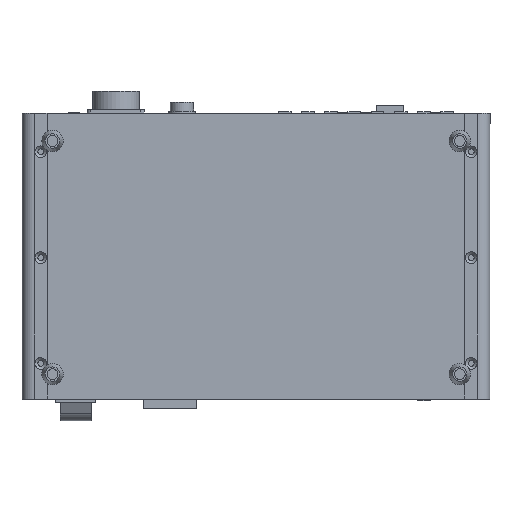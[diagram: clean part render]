
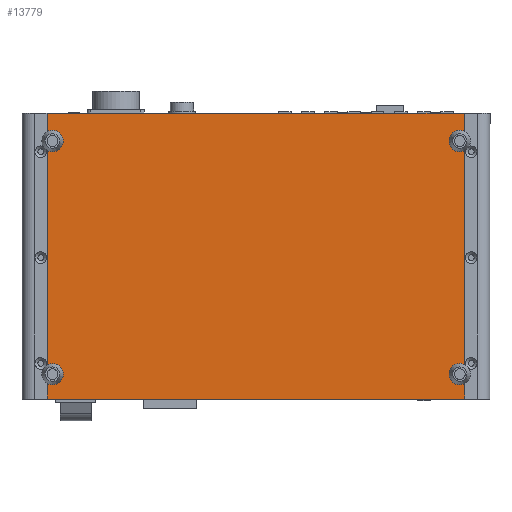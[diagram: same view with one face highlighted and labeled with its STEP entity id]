
A CAD part, front view. The second image highlights one B-rep face of the part: STEP entity #13779.
In plain terms, the highlighted planar face has unit normal (0, -1, 0).
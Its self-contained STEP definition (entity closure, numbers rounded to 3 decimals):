
#44 = LINE ( 'NONE', #1401, #11378 ) ;
#111 = VERTEX_POINT ( 'NONE', #4983 ) ;
#206 = LINE ( 'NONE', #7786, #13848 ) ;
#424 = EDGE_LOOP ( 'NONE', ( #5929, #12008, #8645, #15468, #7775, #4840, #12082, #8828, #7925, #7046, #6901, #12427, #8510, #9872 ) ) ;
#491 = DIRECTION ( 'NONE',  ( 0., 0., 1. ) ) ;
#528 = CARTESIAN_POINT ( 'NONE',  ( -362.974, -74.886, -25.151 ) ) ;
#532 = VECTOR ( 'NONE', #491, 1000. ) ;
#702 = DIRECTION ( 'NONE',  ( 0., 0., 1. ) ) ;
#797 = DIRECTION ( 'NONE',  ( 0., 0., 1. ) ) ;
#851 = DIRECTION ( 'NONE',  ( 0., 0., 1. ) ) ;
#928 = DIRECTION ( 'NONE',  ( 0., -1., 0. ) ) ;
#962 = LINE ( 'NONE', #14645, #4219 ) ;
#1095 = AXIS2_PLACEMENT_3D ( 'NONE', #8162, #13072, #702 ) ;
#1262 = DIRECTION ( 'NONE',  ( -1., 0., 0. ) ) ;
#1370 = PLANE ( 'NONE',  #4886 ) ;
#1401 = CARTESIAN_POINT ( 'NONE',  ( -128.974, -74.886, -25.151 ) ) ;
#1404 = VERTEX_POINT ( 'NONE', #3758 ) ;
#1585 = DIRECTION ( 'NONE',  ( 0., 0., 1. ) ) ;
#1644 = CARTESIAN_POINT ( 'NONE',  ( -362.974, -74.886, -104.901 ) ) ;
#1733 = CARTESIAN_POINT ( 'NONE',  ( -245.974, -74.886, 55.099 ) ) ;
#1945 = EDGE_CURVE ( 'NONE', #14463, #10201, #962, .T. ) ;
#2169 = VECTOR ( 'NONE', #13756, 1000. ) ;
#2174 = CARTESIAN_POINT ( 'NONE',  ( -131.974, -74.886, -90.901 ) ) ;
#2180 = VERTEX_POINT ( 'NONE', #15826 ) ;
#2226 = CARTESIAN_POINT ( 'NONE',  ( -359.974, -74.886, -90.901 ) ) ;
#2369 = CARTESIAN_POINT ( 'NONE',  ( -129.03, -74.886, -104.92 ) ) ;
#2535 = CARTESIAN_POINT ( 'NONE',  ( -369.974, -74.886, -104.901 ) ) ;
#2809 = DIRECTION ( 'NONE',  ( 0., 0., 1. ) ) ;
#2835 = VERTEX_POINT ( 'NONE', #11177 ) ;
#3204 = CARTESIAN_POINT ( 'NONE',  ( -129.03, -74.886, -104.901 ) ) ;
#3236 = LINE ( 'NONE', #528, #5357 ) ;
#3305 = CARTESIAN_POINT ( 'NONE',  ( -362.974, -74.886, -25.151 ) ) ;
#3608 = VECTOR ( 'NONE', #8529, 1000. ) ;
#3758 = CARTESIAN_POINT ( 'NONE',  ( -128.974, -74.886, 55.099 ) ) ;
#4210 = VERTEX_POINT ( 'NONE', #15677 ) ;
#4213 = EDGE_CURVE ( 'NONE', #111, #4210, #10281, .T. ) ;
#4219 = VECTOR ( 'NONE', #4943, 1000. ) ;
#4837 = EDGE_CURVE ( 'NONE', #13984, #2180, #10683, .T. ) ;
#4840 = ORIENTED_EDGE ( 'NONE', *, *, #8731, .F. ) ;
#4886 = AXIS2_PLACEMENT_3D ( 'NONE', #9803, #6143, #1262 ) ;
#4900 = LINE ( 'NONE', #3305, #9519 ) ;
#4943 = DIRECTION ( 'NONE',  ( -1., 0., 0. ) ) ;
#4983 = CARTESIAN_POINT ( 'NONE',  ( -362.974, -74.886, 34.403 ) ) ;
#5156 = EDGE_CURVE ( 'NONE', #13003, #10201, #14724, .T. ) ;
#5357 = VECTOR ( 'NONE', #14131, 1000. ) ;
#5432 = CARTESIAN_POINT ( 'NONE',  ( -129.03, -74.886, 55.08 ) ) ;
#5901 = CARTESIAN_POINT ( 'NONE',  ( -129.03, -74.886, 44.827 ) ) ;
#5929 = ORIENTED_EDGE ( 'NONE', *, *, #1945, .F. ) ;
#6143 = DIRECTION ( 'NONE',  ( 0., 1., 0. ) ) ;
#6153 = VERTEX_POINT ( 'NONE', #13147 ) ;
#6176 = VERTEX_POINT ( 'NONE', #7259 ) ;
#6279 = LINE ( 'NONE', #10369, #532 ) ;
#6632 = EDGE_CURVE ( 'NONE', #1404, #14463, #44, .T. ) ;
#6901 = ORIENTED_EDGE ( 'NONE', *, *, #7749, .F. ) ;
#6997 = DIRECTION ( 'NONE',  ( 0., -1., 0. ) ) ;
#7046 = ORIENTED_EDGE ( 'NONE', *, *, #12728, .T. ) ;
#7259 = CARTESIAN_POINT ( 'NONE',  ( -362.974, -74.886, 55.099 ) ) ;
#7282 = EDGE_CURVE ( 'NONE', #6153, #15566, #206, .T. ) ;
#7450 = LINE ( 'NONE', #2535, #3608 ) ;
#7699 = FACE_OUTER_BOUND ( 'NONE', #424, .T. ) ;
#7749 = EDGE_CURVE ( 'NONE', #6153, #2835, #15492, .T. ) ;
#7770 = VECTOR ( 'NONE', #12076, 1000. ) ;
#7775 = ORIENTED_EDGE ( 'NONE', *, *, #4213, .F. ) ;
#7786 = CARTESIAN_POINT ( 'NONE',  ( -129.03, -74.886, -104.92 ) ) ;
#7925 = ORIENTED_EDGE ( 'NONE', *, *, #15624, .T. ) ;
#8162 = CARTESIAN_POINT ( 'NONE',  ( -131.974, -74.886, 39.599 ) ) ;
#8235 = DIRECTION ( 'NONE',  ( 0., 0., 1. ) ) ;
#8372 = EDGE_CURVE ( 'NONE', #4210, #6176, #4900, .T. ) ;
#8510 = ORIENTED_EDGE ( 'NONE', *, *, #15485, .F. ) ;
#8529 = DIRECTION ( 'NONE',  ( 1., 0., 0. ) ) ;
#8645 = ORIENTED_EDGE ( 'NONE', *, *, #10135, .F. ) ;
#8731 = EDGE_CURVE ( 'NONE', #2180, #111, #15470, .T. ) ;
#8828 = ORIENTED_EDGE ( 'NONE', *, *, #15902, .F. ) ;
#9399 = CARTESIAN_POINT ( 'NONE',  ( -359.974, -74.886, 39.599 ) ) ;
#9461 = DIRECTION ( 'NONE',  ( 0., -1., 0. ) ) ;
#9519 = VECTOR ( 'NONE', #797, 1000. ) ;
#9803 = CARTESIAN_POINT ( 'NONE',  ( -245.974, -74.886, -25.151 ) ) ;
#9872 = ORIENTED_EDGE ( 'NONE', *, *, #5156, .T. ) ;
#10135 = EDGE_CURVE ( 'NONE', #6176, #1404, #11584, .T. ) ;
#10143 = DIRECTION ( 'NONE',  ( 0., 0., -1. ) ) ;
#10201 = VERTEX_POINT ( 'NONE', #5432 ) ;
#10281 = CIRCLE ( 'NONE', #11542, 6. ) ;
#10325 = CARTESIAN_POINT ( 'NONE',  ( -362.974, -74.886, -96.097 ) ) ;
#10369 = CARTESIAN_POINT ( 'NONE',  ( -129.03, -74.886, -104.92 ) ) ;
#10683 = CIRCLE ( 'NONE', #11930, 6. ) ;
#10702 = CARTESIAN_POINT ( 'NONE',  ( -129.03, -74.886, 34.371 ) ) ;
#11041 = VECTOR ( 'NONE', #1585, 1000. ) ;
#11177 = CARTESIAN_POINT ( 'NONE',  ( -129.03, -74.886, -96.129 ) ) ;
#11378 = VECTOR ( 'NONE', #10143, 1000. ) ;
#11542 = AXIS2_PLACEMENT_3D ( 'NONE', #9399, #9461, #851 ) ;
#11584 = LINE ( 'NONE', #1733, #2169 ) ;
#11930 = AXIS2_PLACEMENT_3D ( 'NONE', #2226, #6997, #8235 ) ;
#12008 = ORIENTED_EDGE ( 'NONE', *, *, #6632, .F. ) ;
#12076 = DIRECTION ( 'NONE',  ( 0., 0., 1. ) ) ;
#12082 = ORIENTED_EDGE ( 'NONE', *, *, #4837, .F. ) ;
#12427 = ORIENTED_EDGE ( 'NONE', *, *, #7282, .T. ) ;
#12460 = CIRCLE ( 'NONE', #1095, 6. ) ;
#12728 = EDGE_CURVE ( 'NONE', #14608, #2835, #6279, .T. ) ;
#13003 = VERTEX_POINT ( 'NONE', #5901 ) ;
#13072 = DIRECTION ( 'NONE',  ( 0., -1., 0. ) ) ;
#13147 = CARTESIAN_POINT ( 'NONE',  ( -129.03, -74.886, -85.673 ) ) ;
#13192 = DIRECTION ( 'NONE',  ( 0., 0., 1. ) ) ;
#13756 = DIRECTION ( 'NONE',  ( 1., 0., 0. ) ) ;
#13779 = ADVANCED_FACE ( 'NONE', ( #7699 ), #1370, .F. ) ;
#13848 = VECTOR ( 'NONE', #2809, 1000. ) ;
#13984 = VERTEX_POINT ( 'NONE', #10325 ) ;
#14131 = DIRECTION ( 'NONE',  ( 0., 0., 1. ) ) ;
#14463 = VERTEX_POINT ( 'NONE', #15306 ) ;
#14608 = VERTEX_POINT ( 'NONE', #3204 ) ;
#14645 = CARTESIAN_POINT ( 'NONE',  ( -245.974, -74.886, 55.08 ) ) ;
#14724 = LINE ( 'NONE', #2369, #7770 ) ;
#14856 = AXIS2_PLACEMENT_3D ( 'NONE', #2174, #928, #13192 ) ;
#14949 = CARTESIAN_POINT ( 'NONE',  ( -362.974, -74.886, -25.151 ) ) ;
#15000 = VERTEX_POINT ( 'NONE', #1644 ) ;
#15306 = CARTESIAN_POINT ( 'NONE',  ( -128.974, -74.886, 55.08 ) ) ;
#15468 = ORIENTED_EDGE ( 'NONE', *, *, #8372, .F. ) ;
#15470 = LINE ( 'NONE', #14949, #11041 ) ;
#15485 = EDGE_CURVE ( 'NONE', #13003, #15566, #12460, .T. ) ;
#15492 = CIRCLE ( 'NONE', #14856, 6. ) ;
#15566 = VERTEX_POINT ( 'NONE', #10702 ) ;
#15624 = EDGE_CURVE ( 'NONE', #15000, #14608, #7450, .T. ) ;
#15677 = CARTESIAN_POINT ( 'NONE',  ( -362.974, -74.886, 44.795 ) ) ;
#15826 = CARTESIAN_POINT ( 'NONE',  ( -362.974, -74.886, -85.705 ) ) ;
#15902 = EDGE_CURVE ( 'NONE', #15000, #13984, #3236, .T. ) ;
